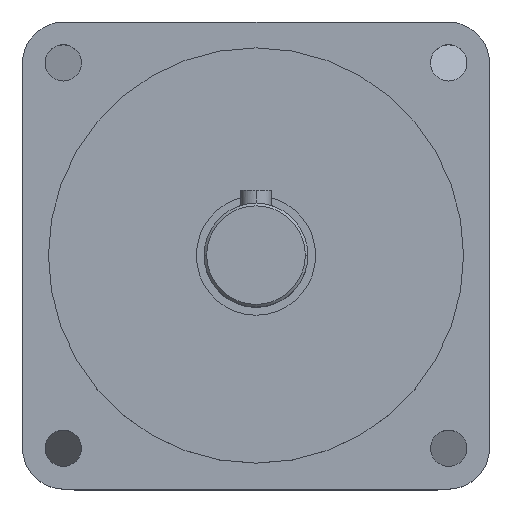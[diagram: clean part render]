
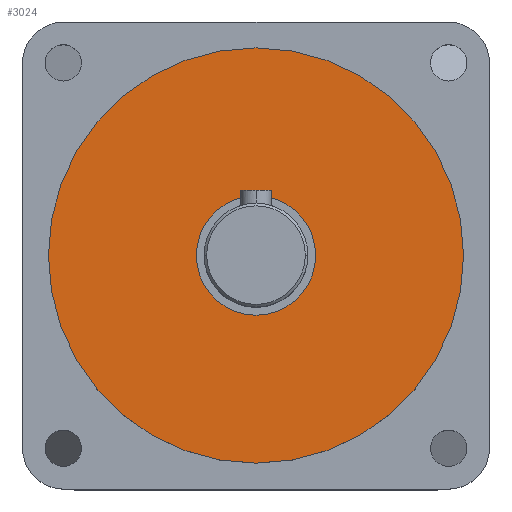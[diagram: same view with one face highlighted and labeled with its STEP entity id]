
A CAD part, top view. The second image highlights one B-rep face of the part: STEP entity #3024.
In plain terms, the highlighted planar face has unit normal (0, 0, 1).
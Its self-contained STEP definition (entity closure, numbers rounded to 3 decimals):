
#1952 = DIRECTION ( 'NONE',  ( 1., 0., 0. ) ) ;
#1953 = DIRECTION ( 'NONE',  ( 0., 0., 1. ) ) ;
#1954 = CARTESIAN_POINT ( 'NONE',  ( 0., 0., 22. ) ) ;
#1955 = AXIS2_PLACEMENT_3D ( 'NONE', #1954, #1953, #1952 ) ;
#1956 = CIRCLE ( 'NONE', #1955, 40. ) ;
#1976 = CARTESIAN_POINT ( 'NONE',  ( -40., 0., 22. ) ) ;
#1988 = CARTESIAN_POINT ( 'NONE',  ( 40., 0., 22. ) ) ;
#2090 = DIRECTION ( 'NONE',  ( 1., 0., 0. ) ) ;
#2091 = DIRECTION ( 'NONE',  ( 0., 0., 1. ) ) ;
#2092 = CARTESIAN_POINT ( 'NONE',  ( 0., 0., 22. ) ) ;
#2093 = AXIS2_PLACEMENT_3D ( 'NONE', #2092, #2091, #2090 ) ;
#2094 = DIRECTION ( 'NONE',  ( 1., 0., 0. ) ) ;
#2095 = DIRECTION ( 'NONE',  ( 0., 0., 1. ) ) ;
#2096 = CARTESIAN_POINT ( 'NONE',  ( 0., 0., 22. ) ) ;
#2097 = CIRCLE ( 'NONE', #2093, 40. ) ;
#2098 = AXIS2_PLACEMENT_3D ( 'NONE', #2096, #2095, #2094 ) ;
#2099 = PLANE ( 'NONE',  #2098 ) ;
#2103 = FACE_OUTER_BOUND ( 'NONE', #3026, .T. ) ;
#2945 = VERTEX_POINT ( 'NONE', #1976 ) ;
#2963 = EDGE_CURVE ( 'NONE', #2987, #2945, #1956, .T. ) ;
#2987 = VERTEX_POINT ( 'NONE', #1988 ) ;
#3021 = ORIENTED_EDGE ( 'NONE', *, *, #2963, .T. ) ;
#3024 = ADVANCED_FACE ( 'NONE', ( #2103 ), #2099, .T. ) ;
#3025 = EDGE_CURVE ( 'NONE', #2945, #2987, #2097, .T. ) ;
#3026 = EDGE_LOOP ( 'NONE', ( #3027, #3021 ) ) ;
#3027 = ORIENTED_EDGE ( 'NONE', *, *, #3025, .T. ) ;
